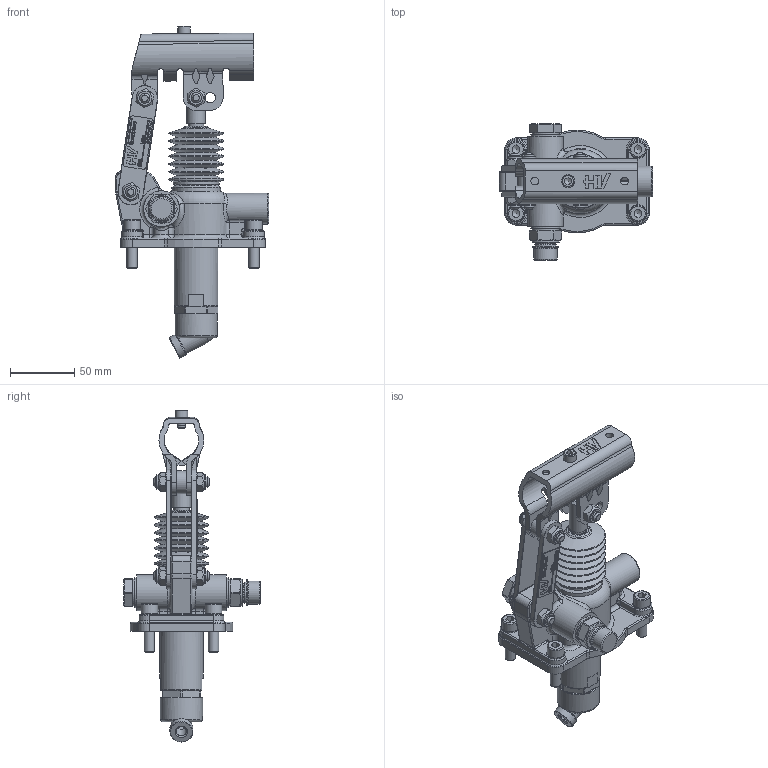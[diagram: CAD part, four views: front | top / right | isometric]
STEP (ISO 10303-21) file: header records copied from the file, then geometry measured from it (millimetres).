
FILE_DESCRIPTION((''),'2;1');
FILE_NAME('G:\HV_HYDRAULIC\AZIENDA_HV_HYDRAULIC\ARCHIVIO_DISEGNI\5_PRODOTTI_FINITI\1_POMPE_MANUALI\6050_PM_12\6050.0118_PM_12_e-s_(HV)\6050.0118.stp','2024-02-28T07:32:13',('christian.scardovi'),(''),'Autodesk Inventor 2013','Autodesk Inventor 2013','');
FILE_SCHEMA(('AUTOMOTIVE_DESIGN { 1 0 10303 214 1 1 1 1 }'));
Length unit declared in the file: millimetre
Products named in the file (1): 6050.0118
Bounding box: 119.5 x 106.5 x 258.81 mm (x, y, z)
Volume: 386712.2 mm3; surface area: 109509.5 mm2
Topology: 3 solids, 3 shells, 1373 faces, 3472 edges, 2197 vertices
Faces by surface type: plane 684, cylinder 277, bspline 190, cone 117, torus 90, sphere 15
Full cylindrical faces by diameter (mm): 4 x1, 5 x2, 6 x4, 6.5 x1, 8 x15, 9 x2, 9.2 x1, 10 x2, 10.376 x1, 11.05 x6, 12 x6, 13 x4, 13.2 x1, 14 x4, 14.5 x1, 14.6 x1, 14.95 x2, 15 x1, 16 x2, 16.6 x1, 18 x5, 20 x3, 21 x3, 22 x1, 23 x2, 24 x1, 26.5 x1, 28 x1, 29 x1, 33 x1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
Entity records: 43227 total; most frequent: CARTESIAN_POINT 11186, ORIENTED_EDGE 6412, DIRECTION 5817, EDGE_CURVE 3206, VERTEX_POINT 2135, AXIS2_PLACEMENT_3D 2016, VECTOR 1785, LINE 1785
